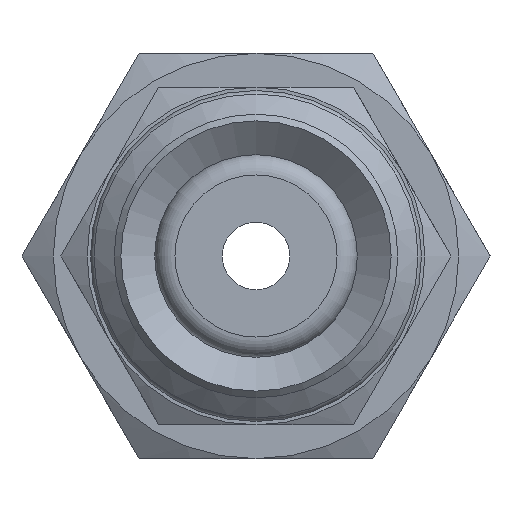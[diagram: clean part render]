
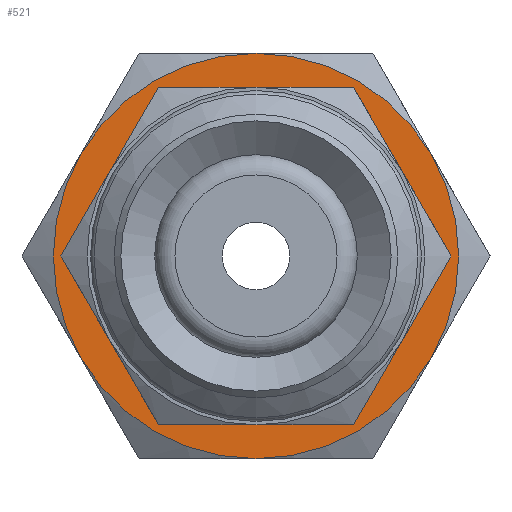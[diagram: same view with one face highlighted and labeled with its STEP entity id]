
A CAD part, front view. The second image highlights one B-rep face of the part: STEP entity #521.
In plain terms, the highlighted planar face has unit normal (0, -1, 0) as drawn and (-1, 0, 0) by its records, which use the part's own axes.
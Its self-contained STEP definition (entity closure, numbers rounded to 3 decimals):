
#521=ADVANCED_FACE('',(#726,#727),#728,.F.);
#726=FACE_BOUND('',#1014,.T.);
#727=FACE_OUTER_BOUND('',#1015,.T.);
#728=PLANE('',#1016);
#1014=EDGE_LOOP('',(#1602));
#1015=EDGE_LOOP('',(#1603,#1604,#1605,#1606,#1607,#1608));
#1016=AXIS2_PLACEMENT_3D('',#1609,#1610,#1611);
#1602=ORIENTED_EDGE('',*,*,#2029,.T.);
#1603=ORIENTED_EDGE('',*,*,#2004,.F.);
#1604=ORIENTED_EDGE('',*,*,#2005,.F.);
#1605=ORIENTED_EDGE('',*,*,#2030,.F.);
#1606=ORIENTED_EDGE('',*,*,#1987,.F.);
#1607=ORIENTED_EDGE('',*,*,#2032,.F.);
#1608=ORIENTED_EDGE('',*,*,#2031,.F.);
#1609=CARTESIAN_POINT('',(0.,0.0,0.0));
#1610=DIRECTION('',(1.0,0.0,0.0));
#1611=DIRECTION('',(0.0,1.0,0.0));
#1987=EDGE_CURVE('',#2251,#2252,#2253,.T.);
#2004=EDGE_CURVE('',#2281,#2278,#2283,.T.);
#2005=EDGE_CURVE('',#2284,#2281,#2285,.T.);
#2029=EDGE_CURVE('',#2320,#2320,#2321,.T.);
#2030=EDGE_CURVE('',#2252,#2284,#2322,.T.);
#2031=EDGE_CURVE('',#2278,#2293,#2323,.T.);
#2032=EDGE_CURVE('',#2293,#2251,#2324,.T.);
#2251=VERTEX_POINT('',#2681);
#2252=VERTEX_POINT('',#2682);
#2253=CIRCLE('',#2683,6.0);
#2278=VERTEX_POINT('',#2792);
#2281=VERTEX_POINT('',#2815);
#2283=CIRCLE('',#2827,6.0);
#2284=VERTEX_POINT('',#2828);
#2285=CIRCLE('',#2829,6.0);
#2293=VERTEX_POINT('',#2868);
#2320=VERTEX_POINT('',#2996);
#2321=CIRCLE('',#2997,4.0);
#2322=CIRCLE('',#2998,6.0);
#2323=CIRCLE('',#2999,6.0);
#2324=CIRCLE('',#3000,6.0);
#2681=CARTESIAN_POINT('',(0.,-5.196,3.0));
#2682=CARTESIAN_POINT('',(0.,-5.196,-3.0));
#2683=AXIS2_PLACEMENT_3D('',#3288,#3289,#3290);
#2792=CARTESIAN_POINT('',(0.,5.196,3.0));
#2815=CARTESIAN_POINT('',(0.,5.196,-3.0));
#2827=AXIS2_PLACEMENT_3D('',#3298,#3299,#3300);
#2828=CARTESIAN_POINT('',(0.,0.0,-6.0));
#2829=AXIS2_PLACEMENT_3D('',#3301,#3302,#3303);
#2868=CARTESIAN_POINT('',(0.,0.0,6.0));
#2996=CARTESIAN_POINT('',(0.,0.0,-4.0));
#2997=AXIS2_PLACEMENT_3D('',#3330,#3331,#3332);
#2998=AXIS2_PLACEMENT_3D('',#3333,#3334,#3335);
#2999=AXIS2_PLACEMENT_3D('',#3336,#3337,#3338);
#3000=AXIS2_PLACEMENT_3D('',#3339,#3340,#3341);
#3288=CARTESIAN_POINT('',(0.,0.0,0.0));
#3289=DIRECTION('',(1.0,0.0,0.0));
#3290=DIRECTION('',(0.0,0.0,-1.0));
#3298=CARTESIAN_POINT('',(0.,0.0,0.0));
#3299=DIRECTION('',(1.0,0.0,0.0));
#3300=DIRECTION('',(0.0,0.0,-1.0));
#3301=CARTESIAN_POINT('',(0.,0.0,0.0));
#3302=DIRECTION('',(1.0,0.0,0.0));
#3303=DIRECTION('',(0.0,0.0,-1.0));
#3330=CARTESIAN_POINT('',(0.,0.0,0.0));
#3331=DIRECTION('',(1.0,0.0,0.0));
#3332=DIRECTION('',(0.0,0.0,-1.0));
#3333=CARTESIAN_POINT('',(0.,0.0,0.0));
#3334=DIRECTION('',(1.0,0.0,0.0));
#3335=DIRECTION('',(0.0,0.0,-1.0));
#3336=CARTESIAN_POINT('',(0.,0.0,0.0));
#3337=DIRECTION('',(1.0,0.0,0.0));
#3338=DIRECTION('',(0.0,0.0,-1.0));
#3339=CARTESIAN_POINT('',(0.,0.0,0.0));
#3340=DIRECTION('',(1.0,0.0,0.0));
#3341=DIRECTION('',(0.0,0.0,-1.0));
